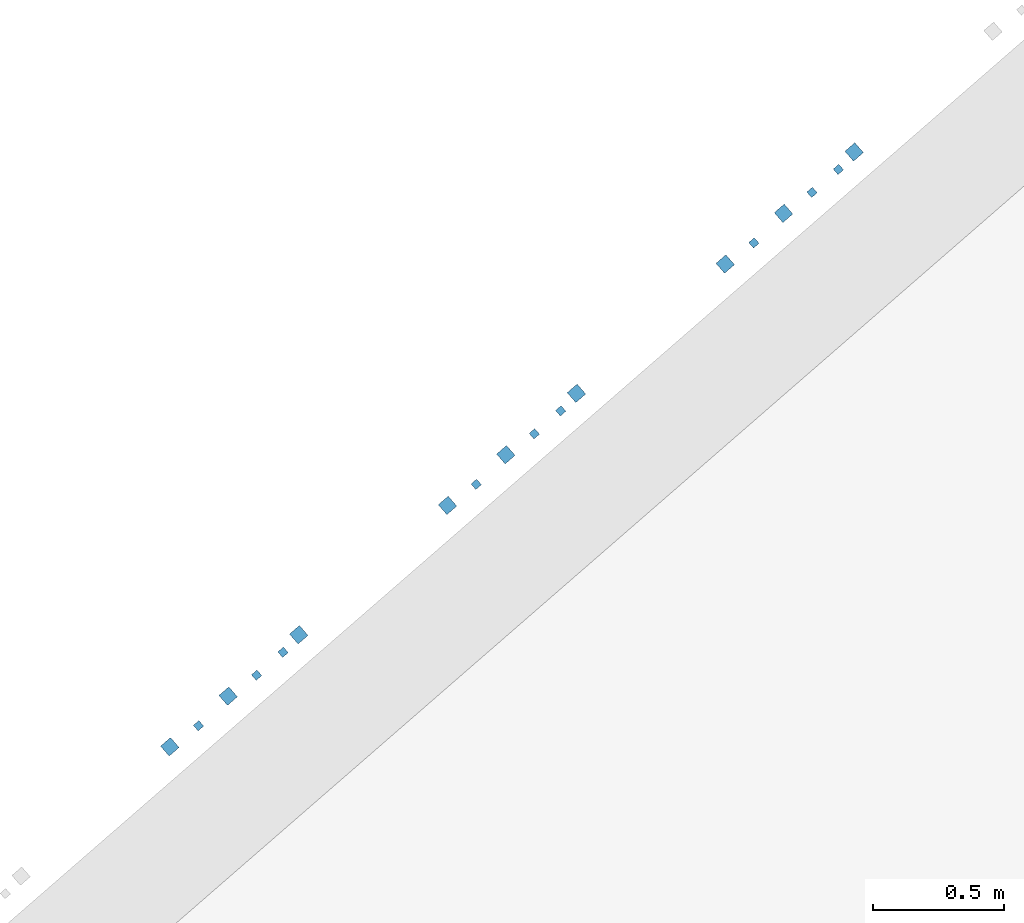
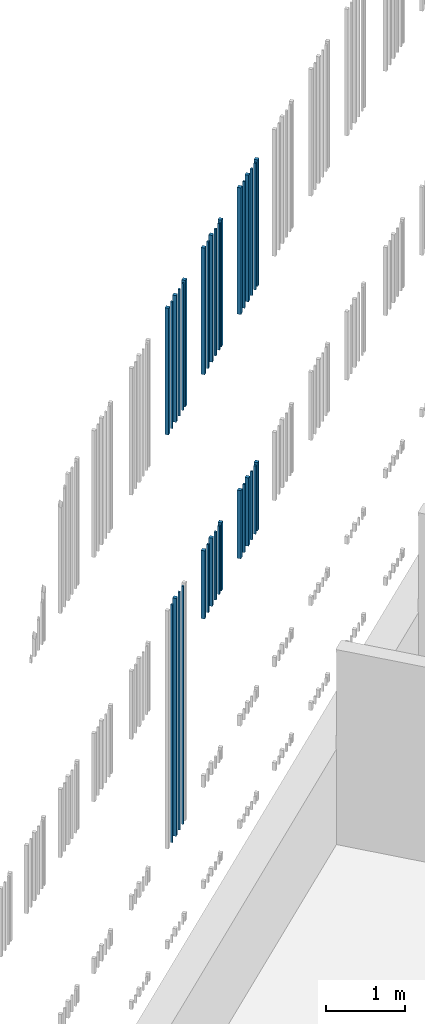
# One storey, part 49 of 124: 34 walls.
"""IFC2X3 building model written with IfcOpenShell, lengths in millimetres."""

from ifc_helpers import new_model, entity, si_unit, converted_unit, derived_unit, money_unit, direction, frame, origin_with_axes, place, context, subcontext, project, spatial, faceted_brep, material, type_object, element, save


model = new_model("IFC2X3")

# Units and contexts
model_context = context("Model", 3, precision=1e-05, world=origin_with_axes(), true_north=direction((0.0, 1.0)))
body_context = subcontext(model_context, "Body", "Model", "MODEL_VIEW")
ifc_project = project(units=[si_unit("LENGTHUNIT", "METRE", prefix="MILLI"), si_unit("AREAUNIT", "SQUARE_METRE"), si_unit("VOLUMEUNIT", "CUBIC_METRE"), converted_unit("PLANEANGLEUNIT", "DEGREE", entity("IfcPlaneAngleMeasure", 0.0174532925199), si_unit("PLANEANGLEUNIT", "RADIAN"), dimensions=[0, 0, 0, 0, 0, 0, 0]), si_unit("SOLIDANGLEUNIT", "STERADIAN"), money_unit("EUR"), converted_unit("TIMEUNIT", "Year", entity("IfcTimeMeasure", 31556926.0), si_unit("TIMEUNIT", "SECOND"), dimensions=[0, 0, 1, 0, 0, 0, 0]), si_unit("MASSUNIT", "GRAM", prefix="KILO"), si_unit("THERMODYNAMICTEMPERATUREUNIT", "DEGREE_CELSIUS"), si_unit("LUMINOUSINTENSITYUNIT", "LUMEN"), si_unit("ENERGYUNIT", "JOULE", prefix="MEGA"), derived_unit("THERMALCONDUCTANCEUNIT", [(si_unit("POWERUNIT", "WATT"), 1), (si_unit("LENGTHUNIT", "METRE"), -1), (si_unit("THERMODYNAMICTEMPERATUREUNIT", "KELVIN"), -1)]), derived_unit("SPECIFICHEATCAPACITYUNIT", [(si_unit("ENERGYUNIT", "JOULE"), 1), (si_unit("MASSUNIT", "GRAM", prefix="KILO"), -1), (si_unit("THERMODYNAMICTEMPERATUREUNIT", "KELVIN"), -1)]), derived_unit("MASSDENSITYUNIT", [(si_unit("MASSUNIT", "GRAM", prefix="KILO"), 1), (si_unit("VOLUMEUNIT", "CUBIC_METRE"), -1)])], contexts=[model_context])

# Site, building, storey
site_placement = place(None, origin_with_axes())
site = spatial("IfcSite", under=ifc_project, at=site_placement, Name="Site", CompositionType="ELEMENT")
building_placement = place(site_placement, origin_with_axes())
building = spatial("IfcBuilding", under=site, at=building_placement, Name="Building", CompositionType="ELEMENT")
storey_placement = place(building_placement, frame((0.0, 0.0, -1615.0), z_axis=(0.0, 0.0, 1.0), x_axis=(1.0, 0.0, 0.0)))
storey = spatial("IfcBuildingStorey", under=building, at=storey_placement, Name="0  korrus", CompositionType="ELEMENT", Elevation=-1615.0)

# Walls
ifc_material = material(Name="Site specified")
wall_type = type_object("IfcWallType", Name="Puitfassaadi ribistik", PredefinedType="NOTDEFINED")
wall_1_placement = place(storey_placement, frame((146045.134168, 96976.9388997, 5771.0), z_axis=(0.0, 0.0, 1.0), x_axis=(0.754709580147, 0.656059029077, 0.0)))
element("IfcWall", 1, at=wall_1_placement, inside=storey, type_object=wall_type, material=ifc_material, Name="Site specified", context=body_context, shape_type="Brep", body=[
    faceted_brep([(14.0, 14.0, 1050.0), (14.0, 14.0, 0.0), (-14.0, 14.0, 0.0), (-14.0, 14.0, 1050.0), (14.0, -14.0, 1050.0), (14.0, -14.0, 0.0), (-14.0, -14.0, 0.0), (-14.0, -14.0, 1050.0)], [[[0, 1, 2, 3]], [[4, 5, 1, 0]], [[2, 1, 5, 6]], [[3, 2, 6, 7]], [[4, 0, 3, 7]], [[7, 6, 5, 4]]]),
])
for number, where, z_axis, x_axis, name in (
    (2, (146205.465437, 97130.887889, 5771.0), (0.0, 0.0, 1.0), (0.754709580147, 0.656059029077, 0.0), "Site specified"),
    (3, (145936.784575, 96897.3271788, 5771.0), (0.0, 0.0, 1.0), (0.754709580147, 0.656059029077, 0.0), "Site specified"),
):
    element("IfcWall", number, at=place(storey_placement, frame(where, z_axis=z_axis, x_axis=x_axis)), inside=storey, type_object=wall_type, material=ifc_material, Name=name, context=body_context, shape_type="Brep", body=[
        faceted_brep([(25.0, 25.0, 1050.0), (25.0, 25.0, 0.0), (-25.0, 25.0, 0.0), (-25.0, 25.0, 1050.0), (25.0, -25.0, 1050.0), (25.0, -25.0, 0.0), (-25.0, -25.0, 0.0), (-25.0, -25.0, 1050.0)], [[[0, 1, 2, 3]], [[4, 5, 1, 0]], [[2, 1, 5, 6]], [[3, 2, 6, 7]], [[4, 0, 3, 7]], [[7, 6, 5, 4]]]),
    ])
wall_2_placement = place(storey_placement, frame((145714.89996, 96704.4458257, 9530.0), z_axis=(0.0, 0.0, 1.0), x_axis=(0.754709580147, 0.656059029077, 0.0)))
element("IfcWall", 4, at=wall_2_placement, inside=storey, type_object=wall_type, material=ifc_material, Name="Site specified", context=body_context, shape_type="Brep", body=[
    faceted_brep([(25.0, 25.0, 1950.0), (25.0, 25.0, 0.0), (-25.0, 25.0, 0.0), (-25.0, 25.0, 1950.0), (25.0, -25.0, 1950.0), (25.0, -25.0, 0.0), (-25.0, -25.0, 0.0), (-25.0, -25.0, 1950.0)], [[[0, 1, 2, 3]], [[4, 5, 1, 0]], [[2, 1, 5, 6]], [[3, 2, 6, 7]], [[4, 0, 3, 7]], [[7, 6, 5, 4]]]),
])
wall_3_placement = place(storey_placement, frame((145824.004282, 96784.7136232, 5771.0), z_axis=(0.0, 0.0, 1.0), x_axis=(0.754709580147, 0.656059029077, 0.0)))
element("IfcWall", 5, at=wall_3_placement, inside=storey, type_object=wall_type, material=ifc_material, Name="Site specified", context=body_context, shape_type="Brep", body=[
    faceted_brep([(14.0, 14.0, 1050.0), (14.0, 14.0, 0.0), (-14.0, 14.0, 0.0), (-14.0, 14.0, 1050.0), (14.0, -14.0, 1050.0), (14.0, -14.0, 0.0), (-14.0, -14.0, 0.0), (-14.0, -14.0, 1050.0)], [[[0, 1, 2, 3]], [[4, 5, 1, 0]], [[2, 1, 5, 6]], [[3, 2, 6, 7]], [[4, 0, 3, 7]], [[7, 6, 5, 4]]]),
])
wall_4_placement = place(storey_placement, frame((145714.89996, 96704.4458257, 5771.0), z_axis=(0.0, 0.0, 1.0), x_axis=(0.754709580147, 0.656059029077, 0.0)))
element("IfcWall", 6, at=wall_4_placement, inside=storey, type_object=wall_type, material=ifc_material, Name="Site specified", context=body_context, shape_type="Brep", body=[
    faceted_brep([(25.0, 25.0, 1050.0), (25.0, 25.0, 0.0), (-25.0, 25.0, 0.0), (-25.0, 25.0, 1050.0), (25.0, -25.0, 1050.0), (25.0, -25.0, 0.0), (-25.0, -25.0, 0.0), (-25.0, -25.0, 1050.0)], [[[0, 1, 2, 3]], [[4, 5, 1, 0]], [[2, 1, 5, 6]], [[3, 2, 6, 7]], [[4, 0, 3, 7]], [[7, 6, 5, 4]]]),
])
wall_5_placement = place(storey_placement, frame((146145.510541, 97064.19475, 5771.0), z_axis=(0.0, 0.0, 1.0), x_axis=(0.754709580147, 0.656059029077, 0.0)))
element("IfcWall", 7, at=wall_5_placement, inside=storey, type_object=wall_type, material=ifc_material, Name="Site specified", context=body_context, shape_type="Brep", body=[
    faceted_brep([(14.0, 14.0, 1050.0), (14.0, 14.0, 0.0), (-14.0, 14.0, 0.0), (-14.0, 14.0, 1050.0), (14.0, -14.0, 1050.0), (14.0, -14.0, 0.0), (-14.0, -14.0, 0.0), (-14.0, -14.0, 1050.0)], [[[0, 1, 2, 3]], [[4, 5, 1, 0]], [[2, 1, 5, 6]], [[3, 2, 6, 7]], [[4, 0, 3, 7]], [[7, 6, 5, 4]]]),
])
for number, where, z_axis, x_axis, name in (
    (8, (145148.87227, 96212.4054615, 5771.0), (0.0, 0.0, 1.0), (0.754709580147, 0.656059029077, 0.0), "Site specified"),
    (9, (144880.191408, 95978.8447513, 5771.0), (0.0, 0.0, 1.0), (0.754709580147, 0.656059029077, 0.0), "Site specified"),
):
    element("IfcWall", number, at=place(storey_placement, frame(where, z_axis=z_axis, x_axis=x_axis)), inside=storey, type_object=wall_type, material=ifc_material, Name=name, context=body_context, shape_type="Brep", body=[
        faceted_brep([(25.0, 25.0, 1050.0), (25.0, 25.0, 0.0), (-25.0, 25.0, 0.0), (-25.0, 25.0, 1050.0), (25.0, -25.0, 1050.0), (25.0, -25.0, 0.0), (-25.0, -25.0, 0.0), (-25.0, -25.0, 1050.0)], [[[0, 1, 2, 3]], [[4, 5, 1, 0]], [[2, 1, 5, 6]], [[3, 2, 6, 7]], [[4, 0, 3, 7]], [[7, 6, 5, 4]]]),
    ])
for number, where, z_axis, x_axis, name in (
    (10, (144767.411115, 95866.2311957, 9530.0), (0.0, 0.0, 1.0), (0.754709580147, 0.656059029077, 0.0), "Site specified"),
    (11, (145088.917374, 96145.7123225, 9530.0), (0.0, 0.0, 1.0), (0.754709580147, 0.656059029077, 0.0), "Site specified"),
):
    element("IfcWall", number, at=place(storey_placement, frame(where, z_axis=z_axis, x_axis=x_axis)), inside=storey, type_object=wall_type, material=ifc_material, Name=name, context=body_context, shape_type="Brep", body=[
        faceted_brep([(14.0, 14.0, 1950.0), (14.0, 14.0, 0.0), (-14.0, 14.0, 0.0), (-14.0, 14.0, 1950.0), (14.0, -14.0, 1950.0), (14.0, -14.0, 0.0), (-14.0, -14.0, 0.0), (-14.0, -14.0, 1950.0)], [[[0, 1, 2, 3]], [[4, 5, 1, 0]], [[2, 1, 5, 6]], [[3, 2, 6, 7]], [[4, 0, 3, 7]], [[7, 6, 5, 4]]]),
    ])
wall_6_placement = place(storey_placement, frame((145088.917374, 96145.7123225, 5771.0), z_axis=(0.0, 0.0, 1.0), x_axis=(0.754709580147, 0.656059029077, 0.0)))
element("IfcWall", 12, at=wall_6_placement, inside=storey, type_object=wall_type, material=ifc_material, Name="Site specified", context=body_context, shape_type="Brep", body=[
    faceted_brep([(14.0, 14.0, 1050.0), (14.0, 14.0, 0.0), (-14.0, 14.0, 0.0), (-14.0, 14.0, 1050.0), (14.0, -14.0, 1050.0), (14.0, -14.0, 0.0), (-14.0, -14.0, 0.0), (-14.0, -14.0, 1050.0)], [[[0, 1, 2, 3]], [[4, 5, 1, 0]], [[2, 1, 5, 6]], [[3, 2, 6, 7]], [[4, 0, 3, 7]], [[7, 6, 5, 4]]]),
])
wall_7_placement = place(storey_placement, frame((144658.306793, 95785.9633982, 5771.0), z_axis=(0.0, 0.0, 1.0), x_axis=(0.754709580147, 0.656059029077, 0.0)))
element("IfcWall", 13, at=wall_7_placement, inside=storey, type_object=wall_type, material=ifc_material, Name="Site specified", context=body_context, shape_type="Brep", body=[
    faceted_brep([(25.0, 25.0, 1050.0), (25.0, 25.0, 0.0), (-25.0, 25.0, 0.0), (-25.0, 25.0, 1050.0), (25.0, -25.0, 1050.0), (25.0, -25.0, 0.0), (-25.0, -25.0, 0.0), (-25.0, -25.0, 1050.0)], [[[0, 1, 2, 3]], [[4, 5, 1, 0]], [[2, 1, 5, 6]], [[3, 2, 6, 7]], [[4, 0, 3, 7]], [[7, 6, 5, 4]]]),
])
for number, where, z_axis, x_axis, name in (
    (14, (144767.411115, 95866.2311957, 5771.0), (0.0, 0.0, 1.0), (0.754709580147, 0.656059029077, 0.0), "Site specified"),
    (15, (144988.541001, 96058.4564722, 5771.0), (0.0, 0.0, 1.0), (0.754709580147, 0.656059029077, 0.0), "Site specified"),
):
    element("IfcWall", number, at=place(storey_placement, frame(where, z_axis=z_axis, x_axis=x_axis)), inside=storey, type_object=wall_type, material=ifc_material, Name=name, context=body_context, shape_type="Brep", body=[
        faceted_brep([(14.0, 14.0, 1050.0), (14.0, 14.0, 0.0), (-14.0, 14.0, 0.0), (-14.0, 14.0, 1050.0), (14.0, -14.0, 1050.0), (14.0, -14.0, 0.0), (-14.0, -14.0, 0.0), (-14.0, -14.0, 1050.0)], [[[0, 1, 2, 3]], [[4, 5, 1, 0]], [[2, 1, 5, 6]], [[3, 2, 6, 7]], [[4, 0, 3, 7]], [[7, 6, 5, 4]]]),
    ])
for number, where, z_axis, x_axis, name in (
    (16, (143710.817949, 94947.7487682, 3159.2860688), (0.0, 0.0, 1.0), (0.754709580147, 0.656059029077, 0.0), "Site specified"),
    (17, (144032.324207, 95227.229895, 3159.2860688), (0.0, 0.0, 1.0), (0.754709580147, 0.656059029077, 0.0), "Site specified"),
):
    element("IfcWall", number, at=place(storey_placement, frame(where, z_axis=z_axis, x_axis=x_axis)), inside=storey, type_object=wall_type, material=ifc_material, Name=name, context=body_context, shape_type="Brep", body=[
        faceted_brep([(14.0, 14.0, 3661.7139312), (14.0, 14.0, 0.0), (-14.0, 14.0, 0.0), (-14.0, 14.0, 3661.7139312), (14.0, -14.0, 3661.7139312), (14.0, -14.0, 0.0), (-14.0, -14.0, 0.0), (-14.0, -14.0, 3661.7139312)], [[[0, 1, 2, 3]], [[4, 5, 1, 0]], [[2, 1, 5, 6]], [[3, 2, 6, 7]], [[4, 0, 3, 7]], [[7, 6, 5, 4]]]),
    ])
for number, where, z_axis, x_axis, name in (
    (18, (146045.134168, 96976.9388997, 9530.0), (0.0, 0.0, 1.0), (0.754709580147, 0.656059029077, 0.0), "Site specified"),
    (19, (145824.004282, 96784.7136232, 9530.0), (0.0, 0.0, 1.0), (0.754709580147, 0.656059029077, 0.0), "Site specified"),
    (20, (146145.510541, 97064.19475, 9530.0), (0.0, 0.0, 1.0), (0.754709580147, 0.656059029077, 0.0), "Site specified"),
):
    element("IfcWall", number, at=place(storey_placement, frame(where, z_axis=z_axis, x_axis=x_axis)), inside=storey, type_object=wall_type, material=ifc_material, Name=name, context=body_context, shape_type="Brep", body=[
        faceted_brep([(14.0, 14.0, 1950.0), (14.0, 14.0, 0.0), (-14.0, 14.0, 0.0), (-14.0, 14.0, 1950.0), (14.0, -14.0, 1950.0), (14.0, -14.0, 0.0), (-14.0, -14.0, 0.0), (-14.0, -14.0, 1950.0)], [[[0, 1, 2, 3]], [[4, 5, 1, 0]], [[2, 1, 5, 6]], [[3, 2, 6, 7]], [[4, 0, 3, 7]], [[7, 6, 5, 4]]]),
    ])
for number, where, z_axis, x_axis, name in (
    (21, (146205.465437, 97130.887889, 9530.0), (0.0, 0.0, 1.0), (0.754709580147, 0.656059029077, 0.0), "Site specified"),
    (22, (144658.306793, 95785.9633982, 9530.0), (0.0, 0.0, 1.0), (0.754709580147, 0.656059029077, 0.0), "Site specified"),
    (23, (145936.784575, 96897.3271788, 9530.0), (0.0, 0.0, 1.0), (0.754709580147, 0.656059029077, 0.0), "Site specified"),
):
    element("IfcWall", number, at=place(storey_placement, frame(where, z_axis=z_axis, x_axis=x_axis)), inside=storey, type_object=wall_type, material=ifc_material, Name=name, context=body_context, shape_type="Brep", body=[
        faceted_brep([(25.0, 25.0, 1950.0), (25.0, 25.0, 0.0), (-25.0, 25.0, 0.0), (-25.0, 25.0, 1950.0), (25.0, -25.0, 1950.0), (25.0, -25.0, 0.0), (-25.0, -25.0, 0.0), (-25.0, -25.0, 1950.0)], [[[0, 1, 2, 3]], [[4, 5, 1, 0]], [[2, 1, 5, 6]], [[3, 2, 6, 7]], [[4, 0, 3, 7]], [[7, 6, 5, 4]]]),
    ])
wall_8_placement = place(storey_placement, frame((144988.541001, 96058.4564722, 9530.0), z_axis=(0.0, 0.0, 1.0), x_axis=(0.754709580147, 0.656059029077, 0.0)))
element("IfcWall", 24, at=wall_8_placement, inside=storey, type_object=wall_type, material=ifc_material, Name="Site specified", context=body_context, shape_type="Brep", body=[
    faceted_brep([(14.0, 14.0, 1950.0), (14.0, 14.0, 0.0), (-14.0, 14.0, 0.0), (-14.0, 14.0, 1950.0), (14.0, -14.0, 1950.0), (14.0, -14.0, 0.0), (-14.0, -14.0, 0.0), (-14.0, -14.0, 1950.0)], [[[0, 1, 2, 3]], [[4, 5, 1, 0]], [[2, 1, 5, 6]], [[3, 2, 6, 7]], [[4, 0, 3, 7]], [[7, 6, 5, 4]]]),
])
for number, where, z_axis, x_axis, name in (
    (25, (145148.87227, 96212.4054615, 9530.0), (0.0, 0.0, 1.0), (0.754709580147, 0.656059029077, 0.0), "Site specified"),
    (26, (144880.191408, 95978.8447513, 9530.0), (0.0, 0.0, 1.0), (0.754709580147, 0.656059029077, 0.0), "Site specified"),
):
    element("IfcWall", number, at=place(storey_placement, frame(where, z_axis=z_axis, x_axis=x_axis)), inside=storey, type_object=wall_type, material=ifc_material, Name=name, context=body_context, shape_type="Brep", body=[
        faceted_brep([(25.0, 25.0, 1950.0), (25.0, 25.0, 0.0), (-25.0, 25.0, 0.0), (-25.0, 25.0, 1950.0), (25.0, -25.0, 1950.0), (25.0, -25.0, 0.0), (-25.0, -25.0, 0.0), (-25.0, -25.0, 1950.0)], [[[0, 1, 2, 3]], [[4, 5, 1, 0]], [[2, 1, 5, 6]], [[3, 2, 6, 7]], [[4, 0, 3, 7]], [[7, 6, 5, 4]]]),
    ])
wall_9_placement = place(storey_placement, frame((143931.947834, 95139.9740447, 3159.2860688), z_axis=(0.0, 0.0, 1.0), x_axis=(0.754709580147, 0.656059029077, 0.0)))
element("IfcWall", 27, at=wall_9_placement, inside=storey, type_object=wall_type, material=ifc_material, Name="Site specified", context=body_context, shape_type="Brep", body=[
    faceted_brep([(14.0, 14.0, 3661.7139312), (14.0, 14.0, 0.0), (-14.0, 14.0, 0.0), (-14.0, 14.0, 3661.7139312), (14.0, -14.0, 3661.7139312), (14.0, -14.0, 0.0), (-14.0, -14.0, 0.0), (-14.0, -14.0, 3661.7139312)], [[[0, 1, 2, 3]], [[4, 5, 1, 0]], [[2, 1, 5, 6]], [[3, 2, 6, 7]], [[4, 0, 3, 7]], [[7, 6, 5, 4]]]),
])
wall_10_placement = place(storey_placement, frame((143823.598241, 95060.3623239, 3159.2860688), z_axis=(0.0, 0.0, 1.0), x_axis=(0.754709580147, 0.656059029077, 0.0)))
element("IfcWall", 28, at=wall_10_placement, inside=storey, type_object=wall_type, material=ifc_material, Name="Site specified", context=body_context, shape_type="Brep", body=[
    faceted_brep([(25.0, 25.0, 3661.7139312), (25.0, 25.0, 0.0), (-25.0, 25.0, 0.0), (-25.0, 25.0, 3661.7139312), (25.0, -25.0, 3661.7139312), (25.0, -25.0, 0.0), (-25.0, -25.0, 0.0), (-25.0, -25.0, 3661.7139312)], [[[0, 1, 2, 3]], [[4, 5, 1, 0]], [[2, 1, 5, 6]], [[3, 2, 6, 7]], [[4, 0, 3, 7]], [[7, 6, 5, 4]]]),
])
for number, where, z_axis, x_axis, name in (
    (29, (143823.598241, 95060.3623239, 9530.0), (0.0, 0.0, 1.0), (0.754709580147, 0.656059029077, 0.0), "Site specified"),
    (30, (143601.713626, 94867.4809707, 9530.0), (0.0, 0.0, 1.0), (0.754709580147, 0.656059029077, 0.0), "Site specified"),
):
    element("IfcWall", number, at=place(storey_placement, frame(where, z_axis=z_axis, x_axis=x_axis)), inside=storey, type_object=wall_type, material=ifc_material, Name=name, context=body_context, shape_type="Brep", body=[
        faceted_brep([(25.0, 25.0, 1950.0), (25.0, 25.0, 0.0), (-25.0, 25.0, 0.0), (-25.0, 25.0, 1950.0), (25.0, -25.0, 1950.0), (25.0, -25.0, 0.0), (-25.0, -25.0, 0.0), (-25.0, -25.0, 1950.0)], [[[0, 1, 2, 3]], [[4, 5, 1, 0]], [[2, 1, 5, 6]], [[3, 2, 6, 7]], [[4, 0, 3, 7]], [[7, 6, 5, 4]]]),
    ])
wall_11_placement = place(storey_placement, frame((143710.817949, 94947.7487682, 9530.0), z_axis=(0.0, 0.0, 1.0), x_axis=(0.754709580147, 0.656059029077, 0.0)))
element("IfcWall", 31, at=wall_11_placement, inside=storey, type_object=wall_type, material=ifc_material, Name="Site specified", context=body_context, shape_type="Brep", body=[
    faceted_brep([(14.0, 14.0, 1950.0), (14.0, 14.0, 0.0), (-14.0, 14.0, 0.0), (-14.0, 14.0, 1950.0), (14.0, -14.0, 1950.0), (14.0, -14.0, 0.0), (-14.0, -14.0, 0.0), (-14.0, -14.0, 1950.0)], [[[0, 1, 2, 3]], [[4, 5, 1, 0]], [[2, 1, 5, 6]], [[3, 2, 6, 7]], [[4, 0, 3, 7]], [[7, 6, 5, 4]]]),
])
wall_12_placement = place(storey_placement, frame((144092.279103, 95293.923034, 9530.0), z_axis=(0.0, 0.0, 1.0), x_axis=(0.754709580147, 0.656059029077, 0.0)))
element("IfcWall", 32, at=wall_12_placement, inside=storey, type_object=wall_type, material=ifc_material, Name="Site specified", context=body_context, shape_type="Brep", body=[
    faceted_brep([(25.0, 25.0, 1950.0), (25.0, 25.0, 0.0), (-25.0, 25.0, 0.0), (-25.0, 25.0, 1950.0), (25.0, -25.0, 1950.0), (25.0, -25.0, 0.0), (-25.0, -25.0, 0.0), (-25.0, -25.0, 1950.0)], [[[0, 1, 2, 3]], [[4, 5, 1, 0]], [[2, 1, 5, 6]], [[3, 2, 6, 7]], [[4, 0, 3, 7]], [[7, 6, 5, 4]]]),
])
for number, where, z_axis, x_axis, name in (
    (33, (143931.947834, 95139.9740447, 9530.0), (0.0, 0.0, 1.0), (0.754709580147, 0.656059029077, 0.0), "Site specified"),
    (34, (144032.324207, 95227.229895, 9530.0), (0.0, 0.0, 1.0), (0.754709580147, 0.656059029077, 0.0), "Site specified"),
):
    element("IfcWall", number, at=place(storey_placement, frame(where, z_axis=z_axis, x_axis=x_axis)), inside=storey, type_object=wall_type, material=ifc_material, Name=name, context=body_context, shape_type="Brep", body=[
        faceted_brep([(14.0, 14.0, 1950.0), (14.0, 14.0, 0.0), (-14.0, 14.0, 0.0), (-14.0, 14.0, 1950.0), (14.0, -14.0, 1950.0), (14.0, -14.0, 0.0), (-14.0, -14.0, 0.0), (-14.0, -14.0, 1950.0)], [[[0, 1, 2, 3]], [[4, 5, 1, 0]], [[2, 1, 5, 6]], [[3, 2, 6, 7]], [[4, 0, 3, 7]], [[7, 6, 5, 4]]]),
    ])

save(model, "model.ifc")
